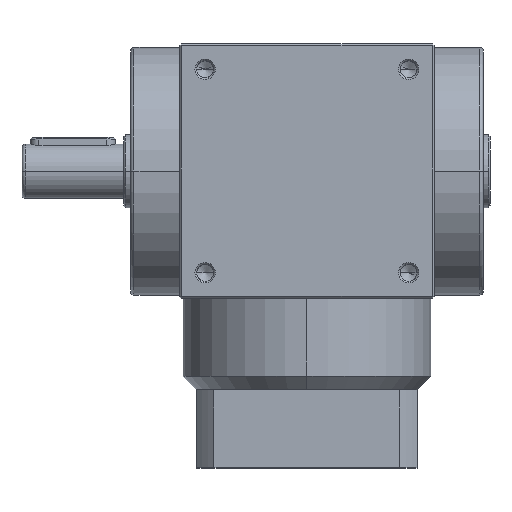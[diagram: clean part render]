
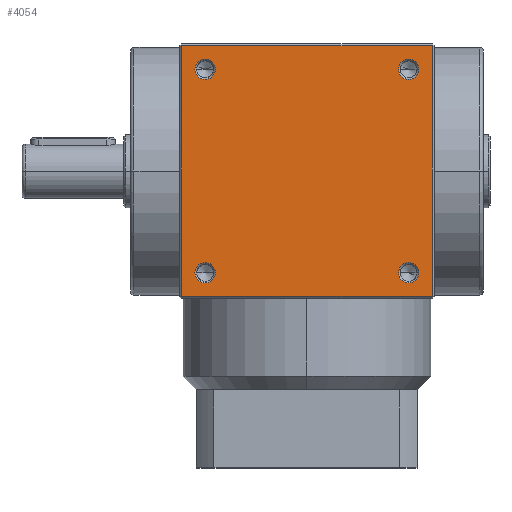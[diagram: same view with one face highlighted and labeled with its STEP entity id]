
A CAD part, top view. The second image highlights one B-rep face of the part: STEP entity #4054.
In plain terms, the highlighted planar face has unit normal (0, 0, 1).
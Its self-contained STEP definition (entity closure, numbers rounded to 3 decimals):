
#23 = DIRECTION ( 'NONE',  ( 0., 0., -1. ) ) ;
#44 = ORIENTED_EDGE ( 'NONE', *, *, #4408, .T. ) ;
#85 = DIRECTION ( 'NONE',  ( -1., 0., 0. ) ) ;
#86 = CIRCLE ( 'NONE', #7686, 3. ) ;
#93 = CARTESIAN_POINT ( 'NONE',  ( -37., 37., 37.5 ) ) ;
#171 = DIRECTION ( 'NONE',  ( 0., 0., -1. ) ) ;
#192 = DIRECTION ( 'NONE',  ( -1., 0., 0. ) ) ;
#405 = CARTESIAN_POINT ( 'NONE',  ( 30., 30., 37.5 ) ) ;
#479 = EDGE_LOOP ( 'NONE', ( #44, #7227, #7266, #2098 ) ) ;
#548 = VERTEX_POINT ( 'NONE', #5089 ) ;
#581 = DIRECTION ( 'NONE',  ( -1., 0., 0. ) ) ;
#682 = CARTESIAN_POINT ( 'NONE',  ( 33., 30., 37.5 ) ) ;
#732 = CARTESIAN_POINT ( 'NONE',  ( 30., -30., 37.5 ) ) ;
#774 = AXIS2_PLACEMENT_3D ( 'NONE', #4573, #4480, #6585 ) ;
#919 = DIRECTION ( 'NONE',  ( 0., 0., -1. ) ) ;
#970 = VECTOR ( 'NONE', #581, 1000. ) ;
#1135 = VERTEX_POINT ( 'NONE', #5841 ) ;
#1138 = CARTESIAN_POINT ( 'NONE',  ( -33., 30., 37.5 ) ) ;
#1406 = DIRECTION ( 'NONE',  ( -1., 0., 0. ) ) ;
#1419 = VERTEX_POINT ( 'NONE', #4428 ) ;
#1534 = DIRECTION ( 'NONE',  ( -1., 0., 0. ) ) ;
#1543 = AXIS2_PLACEMENT_3D ( 'NONE', #2118, #23, #1534 ) ;
#1664 = DIRECTION ( 'NONE',  ( 0., 0., -1. ) ) ;
#1688 = DIRECTION ( 'NONE',  ( -1., 0., 0. ) ) ;
#1748 = CARTESIAN_POINT ( 'NONE',  ( 30., -30., 37.5 ) ) ;
#1897 = EDGE_LOOP ( 'NONE', ( #6450, #5585 ) ) ;
#1932 = CIRCLE ( 'NONE', #4128, 3. ) ;
#2020 = CARTESIAN_POINT ( 'NONE',  ( 30., 30., 37.5 ) ) ;
#2060 = EDGE_CURVE ( 'NONE', #1135, #4998, #8716, .T. ) ;
#2075 = CARTESIAN_POINT ( 'NONE',  ( 27., -30., 37.5 ) ) ;
#2098 = ORIENTED_EDGE ( 'NONE', *, *, #4209, .T. ) ;
#2118 = CARTESIAN_POINT ( 'NONE',  ( -30., 30., 37.5 ) ) ;
#2184 = ORIENTED_EDGE ( 'NONE', *, *, #4290, .T. ) ;
#2205 = VERTEX_POINT ( 'NONE', #1138 ) ;
#2501 = DIRECTION ( 'NONE',  ( 1., 0., 0. ) ) ;
#2552 = CARTESIAN_POINT ( 'NONE',  ( -33., -30., 37.5 ) ) ;
#2582 = FACE_OUTER_BOUND ( 'NONE', #479, .T. ) ;
#2837 = CARTESIAN_POINT ( 'NONE',  ( -37., 0., 37.5 ) ) ;
#2859 = VERTEX_POINT ( 'NONE', #682 ) ;
#2882 = CIRCLE ( 'NONE', #6310, 3. ) ;
#3099 = DIRECTION ( 'NONE',  ( 0., 0., -1. ) ) ;
#3129 = CIRCLE ( 'NONE', #5349, 3. ) ;
#3146 = VERTEX_POINT ( 'NONE', #4789 ) ;
#3168 = AXIS2_PLACEMENT_3D ( 'NONE', #5768, #919, #192 ) ;
#3374 = AXIS2_PLACEMENT_3D ( 'NONE', #2020, #8221, #1406 ) ;
#3380 = EDGE_LOOP ( 'NONE', ( #7784, #8034 ) ) ;
#3423 = ORIENTED_EDGE ( 'NONE', *, *, #6487, .T. ) ;
#3598 = VERTEX_POINT ( 'NONE', #93 ) ;
#3741 = EDGE_CURVE ( 'NONE', #4348, #2859, #5890, .T. ) ;
#3954 = FACE_BOUND ( 'NONE', #3380, .T. ) ;
#3977 = VECTOR ( 'NONE', #5959, 1000. ) ;
#4054 = ADVANCED_FACE ( 'NONE', ( #4166, #3954, #7156, #7486, #2582 ), #7288, .F. ) ;
#4128 = AXIS2_PLACEMENT_3D ( 'NONE', #1748, #1664, #4351 ) ;
#4166 = FACE_BOUND ( 'NONE', #7640, .T. ) ;
#4209 = EDGE_CURVE ( 'NONE', #4884, #3598, #8441, .T. ) ;
#4266 = ORIENTED_EDGE ( 'NONE', *, *, #4878, .T. ) ;
#4290 = EDGE_CURVE ( 'NONE', #3146, #8091, #4787, .T. ) ;
#4348 = VERTEX_POINT ( 'NONE', #8247 ) ;
#4351 = DIRECTION ( 'NONE',  ( -1., 0., 0. ) ) ;
#4408 = EDGE_CURVE ( 'NONE', #3598, #548, #4996, .T. ) ;
#4428 = CARTESIAN_POINT ( 'NONE',  ( -27., 30., 37.5 ) ) ;
#4450 = VERTEX_POINT ( 'NONE', #4995 ) ;
#4480 = DIRECTION ( 'NONE',  ( 0., 0., -1. ) ) ;
#4513 = CARTESIAN_POINT ( 'NONE',  ( 0., -37., 37.5 ) ) ;
#4569 = EDGE_LOOP ( 'NONE', ( #6119, #3423 ) ) ;
#4573 = CARTESIAN_POINT ( 'NONE',  ( 0., 0., 37.5 ) ) ;
#4787 = CIRCLE ( 'NONE', #8361, 3. ) ;
#4789 = CARTESIAN_POINT ( 'NONE',  ( 33., -30., 37.5 ) ) ;
#4824 = DIRECTION ( 'NONE',  ( 0., 0., -1. ) ) ;
#4869 = VECTOR ( 'NONE', #2501, 1000. ) ;
#4878 = EDGE_CURVE ( 'NONE', #8091, #3146, #1932, .T. ) ;
#4884 = VERTEX_POINT ( 'NONE', #7677 ) ;
#4911 = EDGE_CURVE ( 'NONE', #2859, #4348, #2882, .T. ) ;
#4995 = CARTESIAN_POINT ( 'NONE',  ( 37., -37., 37.5 ) ) ;
#4996 = LINE ( 'NONE', #2837, #5641 ) ;
#4998 = VERTEX_POINT ( 'NONE', #2552 ) ;
#5089 = CARTESIAN_POINT ( 'NONE',  ( -37., -37., 37.5 ) ) ;
#5174 = EDGE_CURVE ( 'NONE', #4998, #1135, #86, .T. ) ;
#5334 = CARTESIAN_POINT ( 'NONE',  ( 0., 37., 37.5 ) ) ;
#5349 = AXIS2_PLACEMENT_3D ( 'NONE', #7723, #171, #6392 ) ;
#5585 = ORIENTED_EDGE ( 'NONE', *, *, #3741, .T. ) ;
#5641 = VECTOR ( 'NONE', #6123, 1000. ) ;
#5768 = CARTESIAN_POINT ( 'NONE',  ( -30., -30., 37.5 ) ) ;
#5841 = CARTESIAN_POINT ( 'NONE',  ( -27., -30., 37.5 ) ) ;
#5890 = CIRCLE ( 'NONE', #3374, 3. ) ;
#5959 = DIRECTION ( 'NONE',  ( 0., 1., 0. ) ) ;
#6119 = ORIENTED_EDGE ( 'NONE', *, *, #6547, .T. ) ;
#6123 = DIRECTION ( 'NONE',  ( 0., -1., 0. ) ) ;
#6310 = AXIS2_PLACEMENT_3D ( 'NONE', #405, #3099, #1688 ) ;
#6392 = DIRECTION ( 'NONE',  ( -1., 0., 0. ) ) ;
#6450 = ORIENTED_EDGE ( 'NONE', *, *, #4911, .T. ) ;
#6487 = EDGE_CURVE ( 'NONE', #2205, #1419, #6548, .T. ) ;
#6547 = EDGE_CURVE ( 'NONE', #1419, #2205, #3129, .T. ) ;
#6548 = CIRCLE ( 'NONE', #1543, 3. ) ;
#6585 = DIRECTION ( 'NONE',  ( -1., 0., 0. ) ) ;
#6731 = CARTESIAN_POINT ( 'NONE',  ( -30., -30., 37.5 ) ) ;
#6788 = EDGE_CURVE ( 'NONE', #4450, #4884, #7727, .T. ) ;
#6821 = DIRECTION ( 'NONE',  ( 0., 0., -1. ) ) ;
#7156 = FACE_BOUND ( 'NONE', #1897, .T. ) ;
#7227 = ORIENTED_EDGE ( 'NONE', *, *, #8856, .T. ) ;
#7266 = ORIENTED_EDGE ( 'NONE', *, *, #6788, .T. ) ;
#7288 = PLANE ( 'NONE',  #774 ) ;
#7486 = FACE_BOUND ( 'NONE', #4569, .T. ) ;
#7561 = LINE ( 'NONE', #4513, #4869 ) ;
#7640 = EDGE_LOOP ( 'NONE', ( #2184, #4266 ) ) ;
#7677 = CARTESIAN_POINT ( 'NONE',  ( 37., 37., 37.5 ) ) ;
#7686 = AXIS2_PLACEMENT_3D ( 'NONE', #6731, #6821, #8126 ) ;
#7723 = CARTESIAN_POINT ( 'NONE',  ( -30., 30., 37.5 ) ) ;
#7727 = LINE ( 'NONE', #8052, #3977 ) ;
#7784 = ORIENTED_EDGE ( 'NONE', *, *, #2060, .T. ) ;
#8034 = ORIENTED_EDGE ( 'NONE', *, *, #5174, .T. ) ;
#8052 = CARTESIAN_POINT ( 'NONE',  ( 37., 0., 37.5 ) ) ;
#8091 = VERTEX_POINT ( 'NONE', #2075 ) ;
#8126 = DIRECTION ( 'NONE',  ( -1., 0., 0. ) ) ;
#8221 = DIRECTION ( 'NONE',  ( 0., 0., -1. ) ) ;
#8247 = CARTESIAN_POINT ( 'NONE',  ( 27., 30., 37.5 ) ) ;
#8361 = AXIS2_PLACEMENT_3D ( 'NONE', #732, #4824, #85 ) ;
#8441 = LINE ( 'NONE', #5334, #970 ) ;
#8716 = CIRCLE ( 'NONE', #3168, 3. ) ;
#8856 = EDGE_CURVE ( 'NONE', #548, #4450, #7561, .T. ) ;
